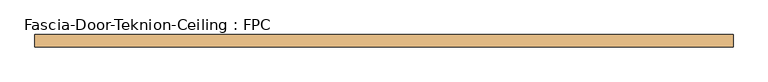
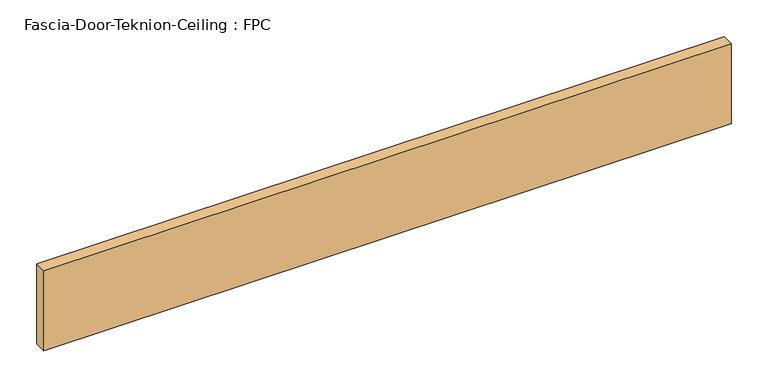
"""IFC4 building model written with IfcOpenShell, lengths in millimetres: door geometry, Fascia-Door-Teknion-Ceiling : FPC."""

from ifc_helpers import new_model, si_unit, origin, origin_with_axes, place, context, project, spatial, polyline, outline, extrude, source, transform, mapped, element, save


def fascia_door_teknion_ceiling_fpc_97e50246(model_context):
    return source(origin(), model_context, "Body", "SweptSolid", [
        extrude(outline(polyline([(537.5175781, 0.0), (537.5175781, -19.05), (-537.5175781, -19.05), (-537.5175781, 0.0), (537.5175781, 0.0)])), origin_with_axes(), (0.0, 0.0, 1.0), 132.08),
    ])


if __name__ == "__main__":
    model = new_model("IFC4")
    model_context = context("Model", 3, world=origin())
    ifc_project = project(units=[si_unit("LENGTHUNIT", "METRE", prefix="MILLI")], contexts=[model_context])
    site = spatial("IfcSite", under=ifc_project)
    building = spatial("IfcBuilding", under=site)
    placement = place(None, origin())
    fascia_door_teknion_ceiling_fpc_shape = fascia_door_teknion_ceiling_fpc_97e50246(model_context)
    element("IfcDoor", 1, ObjectType="Fascia-Door-Teknion-Ceiling : FPC", at=placement, inside=building, context=model_context, shape_type="MappedRepresentation", body=[
        mapped(fascia_door_teknion_ceiling_fpc_shape, transform((0.0, 0.0, 0.0), x_axis=(1.0, 0.0, 0.0), y_axis=(0.0, 1.0, 0.0), z_axis=(0.0, 0.0, 1.0))),
    ])
    save(model, "model.ifc")
